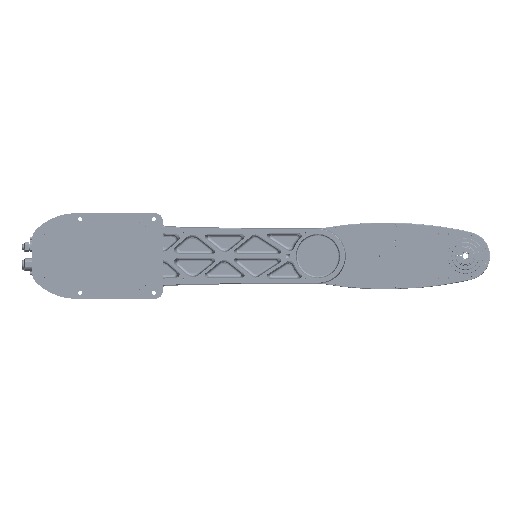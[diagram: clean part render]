
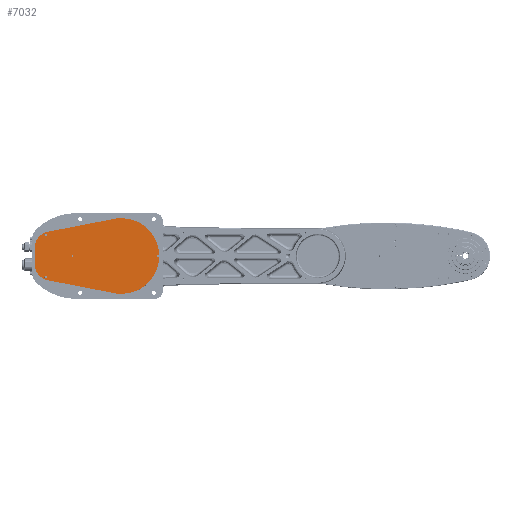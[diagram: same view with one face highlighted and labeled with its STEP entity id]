
A CAD part, front view. The second image highlights one B-rep face of the part: STEP entity #7032.
In plain terms, the highlighted planar face has unit normal (0, -1, 0).
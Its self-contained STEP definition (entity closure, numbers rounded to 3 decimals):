
#7032=ADVANCED_FACE('NONE',(#18348,#18349,#18350,#18351,#18352),#18353,.T.);
#18348=FACE_OUTER_BOUND('',#44086,.T.);
#18349=FACE_BOUND('',#44087,.T.);
#18350=FACE_BOUND('',#44088,.T.);
#18351=FACE_BOUND('',#44089,.T.);
#18352=FACE_BOUND('',#44090,.T.);
#18353=PLANE('',#44091);
#44086=EDGE_LOOP('',(#106953,#106954,#106955,#106956,#106957,#106958,#106959,#106960));
#44087=EDGE_LOOP('',(#106961,#106962));
#44088=EDGE_LOOP('',(#106963,#106964));
#44089=EDGE_LOOP('',(#106965,#106966));
#44090=EDGE_LOOP('',(#106967,#106968));
#44091=AXIS2_PLACEMENT_3D('',#106969,#106970,#106971);
#106953=ORIENTED_EDGE('',*,*,#146073,.F.);
#106954=ORIENTED_EDGE('',*,*,#146074,.F.);
#106955=ORIENTED_EDGE('',*,*,#146075,.F.);
#106956=ORIENTED_EDGE('',*,*,#146076,.F.);
#106957=ORIENTED_EDGE('',*,*,#146077,.F.);
#106958=ORIENTED_EDGE('',*,*,#146078,.F.);
#106959=ORIENTED_EDGE('',*,*,#146070,.F.);
#106960=ORIENTED_EDGE('',*,*,#146066,.F.);
#106961=ORIENTED_EDGE('',*,*,#146051,.T.);
#106962=ORIENTED_EDGE('',*,*,#146079,.T.);
#106963=ORIENTED_EDGE('',*,*,#146061,.T.);
#106964=ORIENTED_EDGE('',*,*,#146080,.T.);
#106965=ORIENTED_EDGE('',*,*,#146056,.T.);
#106966=ORIENTED_EDGE('',*,*,#146081,.T.);
#106967=ORIENTED_EDGE('',*,*,#146082,.T.);
#106968=ORIENTED_EDGE('',*,*,#146039,.T.);
#106969=CARTESIAN_POINT('',(0.0,4.0,0.0));
#106970=DIRECTION('',(0.0,-1.0,0.0));
#106971=DIRECTION('',(0.0,0.0,-1.0));
#146039=EDGE_CURVE('NONE',#164579,#164580,#164581,.T.);
#146051=EDGE_CURVE('NONE',#164602,#164600,#164603,.T.);
#146056=EDGE_CURVE('NONE',#164611,#164609,#164612,.T.);
#146061=EDGE_CURVE('NONE',#164620,#164618,#164621,.T.);
#146066=EDGE_CURVE('NONE',#164627,#164629,#164630,.T.);
#146070=EDGE_CURVE('NONE',#164629,#164635,#164636,.T.);
#146073=EDGE_CURVE('NONE',#164639,#164627,#164640,.T.);
#146074=EDGE_CURVE('NONE',#164641,#164639,#164642,.T.);
#146075=EDGE_CURVE('NONE',#164643,#164641,#164644,.T.);
#146076=EDGE_CURVE('NONE',#164645,#164643,#164646,.T.);
#146077=EDGE_CURVE('NONE',#164647,#164645,#164648,.T.);
#146078=EDGE_CURVE('NONE',#164635,#164647,#164649,.T.);
#146079=EDGE_CURVE('NONE',#164600,#164602,#164650,.T.);
#146080=EDGE_CURVE('NONE',#164618,#164620,#164651,.T.);
#146081=EDGE_CURVE('NONE',#164609,#164611,#164652,.T.);
#146082=EDGE_CURVE('NONE',#164580,#164579,#164653,.T.);
#164579=VERTEX_POINT('NONE',#197593);
#164580=VERTEX_POINT('NONE',#197594);
#164581=CIRCLE('',#197595,1.25);
#164600=VERTEX_POINT('NONE',#197618);
#164602=VERTEX_POINT('NONE',#197621);
#164603=CIRCLE('',#197622,1.75);
#164609=VERTEX_POINT('NONE',#197629);
#164611=VERTEX_POINT('NONE',#197632);
#164612=CIRCLE('',#197633,1.75);
#164618=VERTEX_POINT('NONE',#197640);
#164620=VERTEX_POINT('NONE',#197643);
#164621=CIRCLE('',#197644,1.75);
#164627=VERTEX_POINT('NONE',#197651);
#164629=VERTEX_POINT('NONE',#197654);
#164630=CIRCLE('',#197655,77.0);
#164635=VERTEX_POINT('NONE',#197661);
#164636=CIRCLE('',#197662,77.0);
#164639=VERTEX_POINT('NONE',#197666);
#164640=CIRCLE('',#197667,77.0);
#164641=VERTEX_POINT('NONE',#197668);
#164642=LINE('',#197669,#197670);
#164643=VERTEX_POINT('NONE',#197671);
#164644=CIRCLE('',#197672,33.5);
#164645=VERTEX_POINT('NONE',#197673);
#164646=LINE('',#197674,#197675);
#164647=VERTEX_POINT('NONE',#197676);
#164648=CIRCLE('',#197677,33.5);
#164649=LINE('',#197678,#197679);
#164650=CIRCLE('',#197680,1.75);
#164651=CIRCLE('',#197681,1.75);
#164652=CIRCLE('',#197682,1.75);
#164653=CIRCLE('',#197683,1.25);
#197593=CARTESIAN_POINT('',(-100.0,4.0,-1.25));
#197594=CARTESIAN_POINT('',(-100.0,4.0,1.25));
#197595=AXIS2_PLACEMENT_3D('',#250900,#250901,#250902);
#197618=CARTESIAN_POINT('',(-154.,4.0,44.75));
#197621=CARTESIAN_POINT('',(-154.,4.0,41.25));
#197622=AXIS2_PLACEMENT_3D('',#250920,#250921,#250922);
#197629=CARTESIAN_POINT('',(-154.,4.0,-41.25));
#197632=CARTESIAN_POINT('',(-154.,4.0,-44.75));
#197633=AXIS2_PLACEMENT_3D('',#250928,#250929,#250930);
#197640=CARTESIAN_POINT('',(74.,4.0,1.75));
#197643=CARTESIAN_POINT('',(74.,4.0,-1.75));
#197644=AXIS2_PLACEMENT_3D('',#250936,#250937,#250938);
#197651=CARTESIAN_POINT('',(0.,4.0,77.0));
#197654=CARTESIAN_POINT('',(0.0,4.0,-77.0));
#197655=AXIS2_PLACEMENT_3D('',#250944,#250945,#250946);
#197661=CARTESIAN_POINT('',(-14.702,4.0,-75.583));
#197662=AXIS2_PLACEMENT_3D('',#250951,#250952,#250953);
#197666=CARTESIAN_POINT('',(-14.702,4.0,75.583));
#197667=AXIS2_PLACEMENT_3D('',#250955,#250956,#250957);
#197668=CARTESIAN_POINT('',(-149.396,4.0,49.384));
#197669=CARTESIAN_POINT('',(-14.702,4.0,75.583));
#197670=VECTOR('',#250958,1000.0);
#197671=CARTESIAN_POINT('',(-176.5,4.0,16.5));
#197672=AXIS2_PLACEMENT_3D('',#250959,#250960,#250961);
#197673=CARTESIAN_POINT('',(-176.5,4.0,-16.5));
#197674=CARTESIAN_POINT('',(-176.5,4.0,-16.5));
#197675=VECTOR('',#250962,1000.0);
#197676=CARTESIAN_POINT('',(-149.396,4.0,-49.384));
#197677=AXIS2_PLACEMENT_3D('',#250963,#250964,#250965);
#197678=CARTESIAN_POINT('',(-14.702,4.0,-75.583));
#197679=VECTOR('',#250966,1000.0);
#197680=AXIS2_PLACEMENT_3D('',#250967,#250968,#250969);
#197681=AXIS2_PLACEMENT_3D('',#250970,#250971,#250972);
#197682=AXIS2_PLACEMENT_3D('',#250973,#250974,#250975);
#197683=AXIS2_PLACEMENT_3D('',#250976,#250977,#250978);
#250900=CARTESIAN_POINT('',(-100.0,4.0,0.0));
#250901=DIRECTION('',(0.0,1.0,0.0));
#250902=DIRECTION('',(0.0,0.0,-1.0));
#250920=CARTESIAN_POINT('',(-154.,4.0,43.0));
#250921=DIRECTION('',(0.0,1.0,0.0));
#250922=DIRECTION('',(0.0,0.0,-1.0));
#250928=CARTESIAN_POINT('',(-154.,4.0,-43.0));
#250929=DIRECTION('',(0.0,1.0,0.0));
#250930=DIRECTION('',(0.0,0.0,1.0));
#250936=CARTESIAN_POINT('',(74.,4.0,0.0));
#250937=DIRECTION('',(0.0,1.0,0.0));
#250938=DIRECTION('',(0.0,0.0,1.0));
#250944=CARTESIAN_POINT('',(0.0,4.0,0.0));
#250945=DIRECTION('',(0.0,1.0,0.0));
#250946=DIRECTION('',(0.0,0.0,-1.0));
#250951=CARTESIAN_POINT('',(0.0,4.0,0.0));
#250952=DIRECTION('',(0.0,1.0,0.0));
#250953=DIRECTION('',(0.0,0.0,-1.0));
#250955=CARTESIAN_POINT('',(0.0,4.0,0.0));
#250956=DIRECTION('',(0.0,1.0,0.0));
#250957=DIRECTION('',(0.0,0.0,-1.0));
#250958=DIRECTION('',(0.982,0.0,0.191));
#250959=CARTESIAN_POINT('',(-143.,4.0,16.5));
#250960=DIRECTION('',(0.0,1.0,0.0));
#250961=DIRECTION('',(0.0,0.0,-1.0));
#250962=DIRECTION('',(0.0,0.0,1.0));
#250963=CARTESIAN_POINT('',(-143.,4.0,-16.5));
#250964=DIRECTION('',(0.0,1.0,0.0));
#250965=DIRECTION('',(0.0,0.0,1.0));
#250966=DIRECTION('',(-0.982,0.0,0.191));
#250967=CARTESIAN_POINT('',(-154.,4.0,43.0));
#250968=DIRECTION('',(0.0,1.0,0.0));
#250969=DIRECTION('',(0.0,0.0,-1.0));
#250970=CARTESIAN_POINT('',(74.,4.0,0.0));
#250971=DIRECTION('',(0.0,1.0,0.0));
#250972=DIRECTION('',(0.0,0.0,1.0));
#250973=CARTESIAN_POINT('',(-154.,4.0,-43.0));
#250974=DIRECTION('',(0.0,1.0,0.0));
#250975=DIRECTION('',(0.0,0.0,1.0));
#250976=CARTESIAN_POINT('',(-100.0,4.0,0.0));
#250977=DIRECTION('',(0.0,1.0,0.0));
#250978=DIRECTION('',(0.0,0.0,-1.0));
